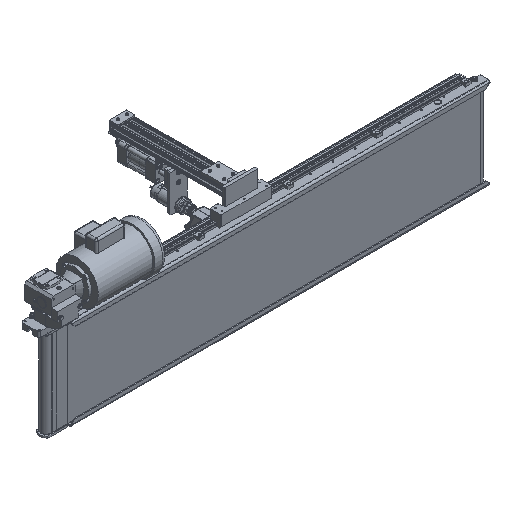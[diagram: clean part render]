
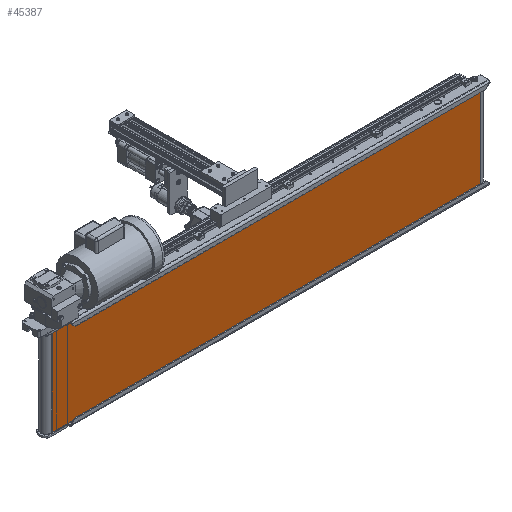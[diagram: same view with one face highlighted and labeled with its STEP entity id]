
A CAD part, isometric view. The second image highlights one B-rep face of the part: STEP entity #45387.
In plain terms, the highlighted planar face has unit normal (-0.001, -1, 0) as drawn and (0, -0.001, -1) by its records, which use the part's own axes.
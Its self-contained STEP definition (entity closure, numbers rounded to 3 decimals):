
#4317=PLANE('',#50026);
#6893=FACE_OUTER_BOUND('',#9855,.T.);
#9855=EDGE_LOOP('',(#41637,#41638,#41639,#41640));
#13462=LINE('',#92944,#17112);
#13463=LINE('',#92948,#17113);
#13464=LINE('',#92951,#17114);
#13465=LINE('',#92954,#17115);
#17112=VECTOR('',#62027,1.);
#17113=VECTOR('',#62032,1.);
#17114=VECTOR('',#62035,1.);
#17115=VECTOR('',#62040,1.);
#23149=VERTEX_POINT('',#92940);
#23150=VERTEX_POINT('',#92942);
#23151=VERTEX_POINT('',#92946);
#23152=VERTEX_POINT('',#92950);
#29372=EDGE_CURVE('',#23149,#23150,#13462,.T.);
#29374=EDGE_CURVE('',#23150,#23151,#13463,.T.);
#29375=EDGE_CURVE('',#23152,#23149,#13464,.T.);
#29377=EDGE_CURVE('',#23151,#23152,#13465,.T.);
#41637=ORIENTED_EDGE('',*,*,#29374,.T.);
#41638=ORIENTED_EDGE('',*,*,#29377,.T.);
#41639=ORIENTED_EDGE('',*,*,#29375,.T.);
#41640=ORIENTED_EDGE('',*,*,#29372,.T.);
#45387=ADVANCED_FACE('',(#6893),#4317,.T.);
#50026=AXIS2_PLACEMENT_3D('',#92953,#62038,#62039);
#62027=DIRECTION('',(0.,-1.,0.001));
#62032=DIRECTION('',(-1.,0.,0.));
#62035=DIRECTION('',(1.,0.,0.));
#62038=DIRECTION('center_axis',(0.,-0.001,-1.));
#62039=DIRECTION('ref_axis',(0.,1.,-0.001));
#62040=DIRECTION('',(0.,1.,-0.001));
#92940=CARTESIAN_POINT('',(74.93,1416.04,-35.281));
#92942=CARTESIAN_POINT('',(74.93,-57.157,-34.519));
#92944=CARTESIAN_POINT('',(74.93,1416.04,-35.281));
#92946=CARTESIAN_POINT('',(-227.33,-57.157,-34.519));
#92948=CARTESIAN_POINT('',(74.93,-57.157,-34.519));
#92950=CARTESIAN_POINT('',(-227.33,1416.04,-35.281));
#92951=CARTESIAN_POINT('',(-227.33,1416.04,-35.281));
#92953=CARTESIAN_POINT('Origin',(74.93,1416.04,-35.281));
#92954=CARTESIAN_POINT('',(-227.33,-57.157,-34.519));
